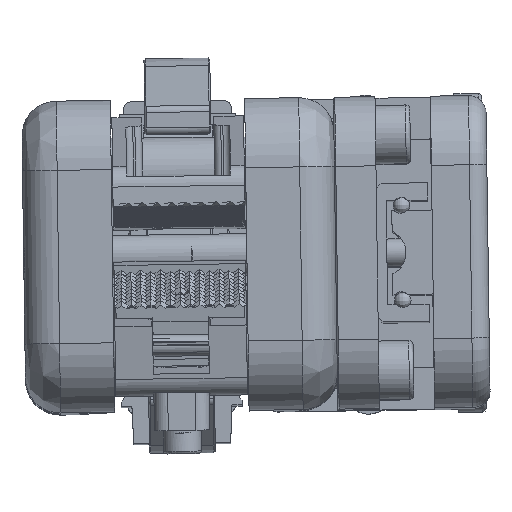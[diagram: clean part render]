
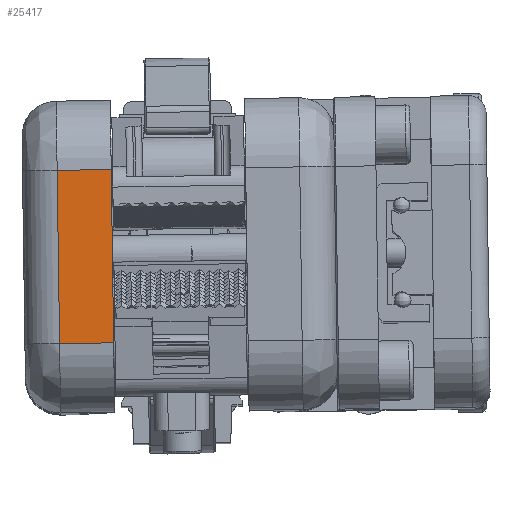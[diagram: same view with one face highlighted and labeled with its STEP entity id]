
A CAD part, top view. The second image highlights one B-rep face of the part: STEP entity #25417.
In plain terms, the highlighted planar face has unit normal (0, 0, 1).
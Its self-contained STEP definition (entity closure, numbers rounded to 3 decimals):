
#1808=LINE('',#67625,#4730);
#1809=LINE('',#67628,#4731);
#1810=LINE('',#67630,#4732);
#1811=LINE('',#67632,#4733);
#4730=VECTOR('',#52720,1.);
#4731=VECTOR('',#52721,1.);
#4732=VECTOR('',#52722,1.);
#4733=VECTOR('',#52723,1.);
#21327=FACE_OUTER_BOUND('',#29005,.T.);
#22827=PLANE('',#47079);
#25417=ADVANCED_FACE('',(#21327),#22827,.F.);
#29005=EDGE_LOOP('',(#34132,#34133,#34134,#34135));
#34132=ORIENTED_EDGE('',*,*,#43547,.T.);
#34133=ORIENTED_EDGE('',*,*,#43548,.T.);
#34134=ORIENTED_EDGE('',*,*,#43549,.T.);
#34135=ORIENTED_EDGE('',*,*,#43550,.T.);
#40171=VERTEX_POINT('',#67626);
#40172=VERTEX_POINT('',#67627);
#40173=VERTEX_POINT('',#67629);
#40174=VERTEX_POINT('',#67631);
#43547=EDGE_CURVE('',#40171,#40172,#1808,.T.);
#43548=EDGE_CURVE('',#40172,#40173,#1809,.T.);
#43549=EDGE_CURVE('',#40173,#40174,#1810,.T.);
#43550=EDGE_CURVE('',#40174,#40171,#1811,.T.);
#47079=AXIS2_PLACEMENT_3D('',#67633,#52724,#52725);
#52720=DIRECTION('',(0.014,-1.,0.));
#52721=DIRECTION('',(1.,0.014,0.));
#52722=DIRECTION('',(-0.014,1.,0.));
#52723=DIRECTION('',(-1.,-0.014,0.));
#52724=DIRECTION('',(0.,0.,-1.));
#52725=DIRECTION('',(0.014,-1.,0.));
#67625=CARTESIAN_POINT('',(-17.182,-22.744,282.));
#67626=CARTESIAN_POINT('',(-17.674,12.253,282.));
#67627=CARTESIAN_POINT('',(-17.322,-12.745,282.));
#67628=CARTESIAN_POINT('',(-22.322,-12.815,282.));
#67629=CARTESIAN_POINT('',(-9.523,-12.635,282.));
#67630=CARTESIAN_POINT('',(-10.016,22.361,282.));
#67631=CARTESIAN_POINT('',(-9.875,12.362,282.));
#67632=CARTESIAN_POINT('',(-22.674,12.182,282.));
#67633=CARTESIAN_POINT('',(-22.814,22.181,282.));
